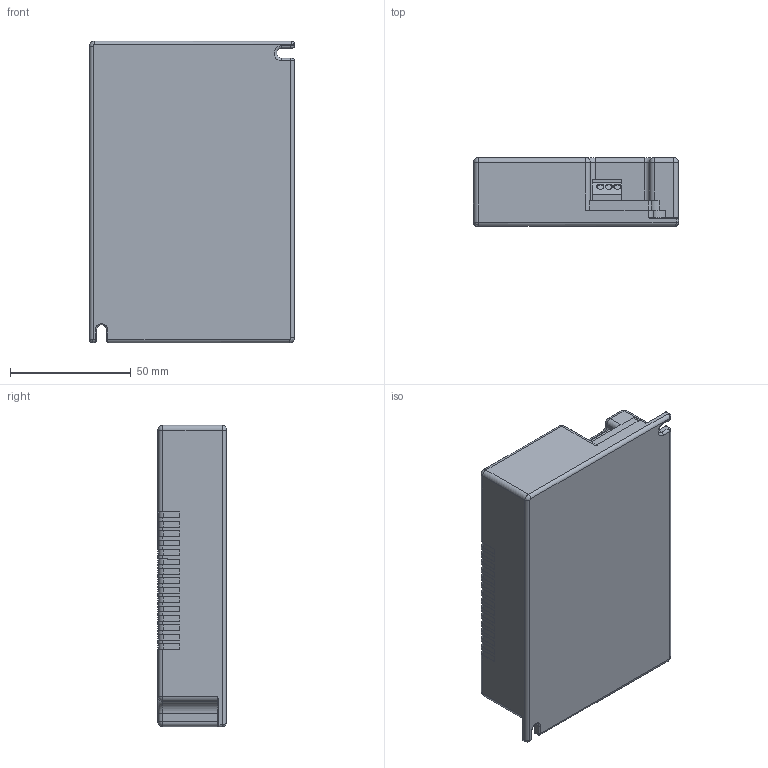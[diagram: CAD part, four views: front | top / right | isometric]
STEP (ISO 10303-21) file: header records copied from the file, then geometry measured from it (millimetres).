
FILE_DESCRIPTION((''),'2;1');
FILE_NAME('15007702_ZC5','2013-06-12T',('erich.spiegel'),(''),'PRO/ENGINEER BY PARAMETRIC TECHNOLOGY CORPORATION, 2012420','PRO/ENGINEER BY PARAMETRIC TECHNOLOGY CORPORATION, 2012420','');
FILE_SCHEMA(('AUTOMOTIVE_DESIGN { 1 2 10303 214 0 1 1 1 }'));
Length unit declared in the file: millimetre
Products named in the file (1): 15007702_ZC5
Bounding box: 85 x 28.3 x 125 mm (x, y, z)
Volume: 280681.8 mm3; surface area: 34655 mm2
Topology: 1 solids, 1 shells, 413 faces, 1136 edges, 736 vertices
Faces by surface type: plane 220, cylinder 163, torus 14, bspline 8, sphere 8
Entity records: 17182 total; most frequent: CARTESIAN_POINT 2616, DIRECTION 2277, ORIENTED_EDGE 2272, PRESENTATION_STYLE_ASSIGNMENT 1159, STYLED_ITEM 1137, CURVE_STYLE 1136, EDGE_CURVE 1136, VECTOR 777
